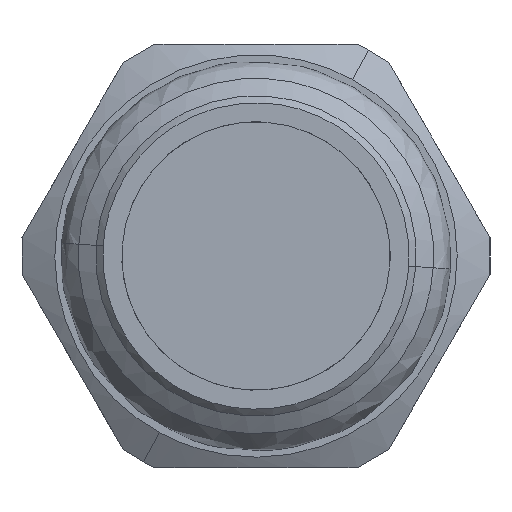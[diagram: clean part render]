
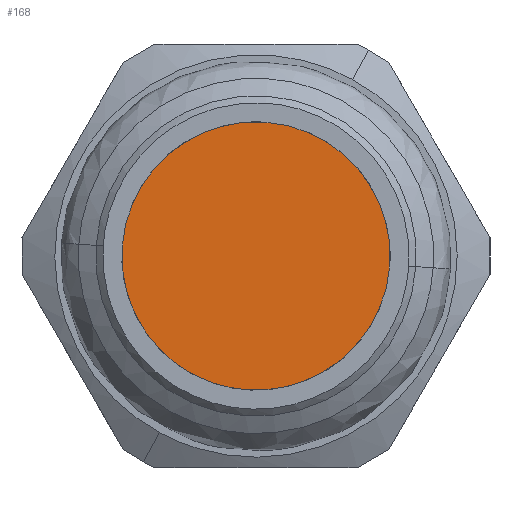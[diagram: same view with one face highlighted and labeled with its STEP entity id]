
A CAD part, left-side view. The second image highlights one B-rep face of the part: STEP entity #168.
In plain terms, the highlighted free-form (B-spline) face has degree [1, 1] with [2, 2] control points.
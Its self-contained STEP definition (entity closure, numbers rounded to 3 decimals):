
#168=ADVANCED_FACE('',(#353),#354,.T.);
#353=FACE_OUTER_BOUND('',#732,.T.);
#354=B_SPLINE_SURFACE_WITH_KNOTS('',1,1,((#733,#734),(#735,#736)),.UNSPECIFIED.,.F.,.F.,.F.,(2,2),(2,2),(0.0,19.01),(0.0,19.01),.UNSPECIFIED.);
#732=EDGE_LOOP('',(#1361,#1362,#1363));
#733=CARTESIAN_POINT('',(0.,-9.505,-9.505));
#734=CARTESIAN_POINT('',(0.,9.505,-9.505));
#735=CARTESIAN_POINT('',(0.,-9.505,9.505));
#736=CARTESIAN_POINT('',(0.,9.505,9.505));
#1361=ORIENTED_EDGE('',*,*,#1720,.T.);
#1362=ORIENTED_EDGE('',*,*,#1617,.T.);
#1363=ORIENTED_EDGE('',*,*,#1721,.T.);
#1617=EDGE_CURVE('',#1891,#1888,#1892,.T.);
#1720=EDGE_CURVE('',#2049,#1891,#2050,.T.);
#1721=EDGE_CURVE('',#1888,#2049,#2051,.T.);
#1888=VERTEX_POINT('',#2417);
#1891=VERTEX_POINT('',#2421);
#1892=(B_SPLINE_CURVE(2,(#2423,#2424,#2425,#2426,#2427),.UNSPECIFIED.,.F.,.F.)B_SPLINE_CURVE_WITH_KNOTS((3,2,3),(-1.571,0.,1.571),.UNSPECIFIED.)RATIONAL_B_SPLINE_CURVE((1.0,0.707,1.0,0.707,1.0))BOUNDED_CURVE()REPRESENTATION_ITEM('')GEOMETRIC_REPRESENTATION_ITEM()CURVE());
#2049=VERTEX_POINT('',#2882);
#2050=(B_SPLINE_CURVE(2,(#2884,#2885,#2886),.UNSPECIFIED.,.F.,.F.)B_SPLINE_CURVE_WITH_KNOTS((3,3),(-3.142,-1.571),.UNSPECIFIED.)RATIONAL_B_SPLINE_CURVE((1.0,0.707,1.0))BOUNDED_CURVE()REPRESENTATION_ITEM('')GEOMETRIC_REPRESENTATION_ITEM()CURVE());
#2051=(B_SPLINE_CURVE(2,(#2894,#2895,#2896),.UNSPECIFIED.,.F.,.F.)B_SPLINE_CURVE_WITH_KNOTS((3,3),(1.571,3.142),.UNSPECIFIED.)RATIONAL_B_SPLINE_CURVE((1.0,0.707,1.0))BOUNDED_CURVE()REPRESENTATION_ITEM('')GEOMETRIC_REPRESENTATION_ITEM()CURVE());
#2417=CARTESIAN_POINT('',(0.,-9.484,-0.631));
#2421=CARTESIAN_POINT('',(0.,9.484,0.631));
#2423=CARTESIAN_POINT('',(0.,9.484,0.631));
#2424=CARTESIAN_POINT('',(0.,10.115,-8.853));
#2425=CARTESIAN_POINT('',(0.,0.631,-9.484));
#2426=CARTESIAN_POINT('',(0.,-8.853,-10.115));
#2427=CARTESIAN_POINT('',(0.,-9.484,-0.631));
#2882=CARTESIAN_POINT('',(0.,-0.631,9.484));
#2884=CARTESIAN_POINT('',(0.,-0.631,9.484));
#2885=CARTESIAN_POINT('',(0.,8.853,10.115));
#2886=CARTESIAN_POINT('',(0.,9.484,0.631));
#2894=CARTESIAN_POINT('',(0.,-9.484,-0.631));
#2895=CARTESIAN_POINT('',(0.,-10.115,8.853));
#2896=CARTESIAN_POINT('',(0.,-0.631,9.484));
